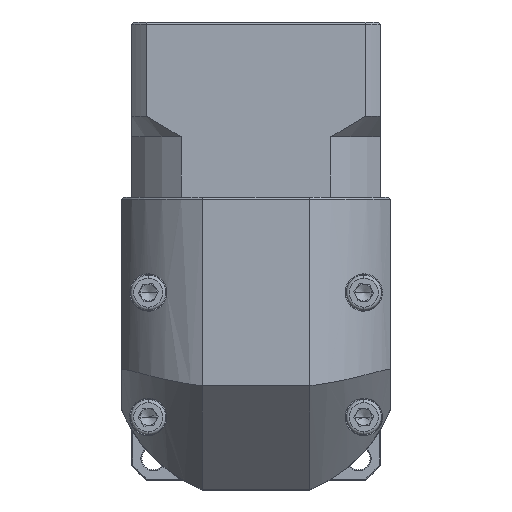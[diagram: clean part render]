
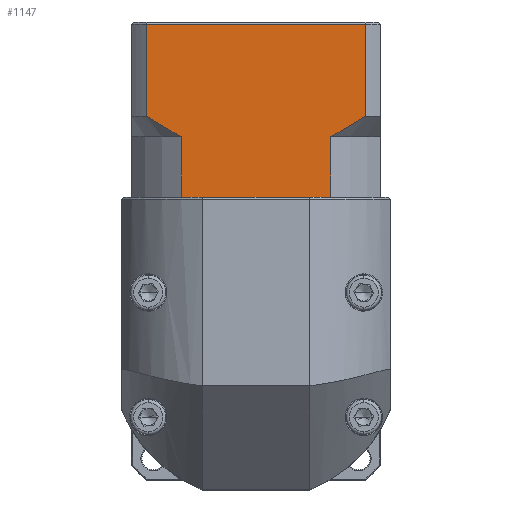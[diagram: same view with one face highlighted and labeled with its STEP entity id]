
A CAD part, top view. The second image highlights one B-rep face of the part: STEP entity #1147.
In plain terms, the highlighted planar face has unit normal (0, 0, 1).
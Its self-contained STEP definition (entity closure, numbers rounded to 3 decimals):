
#999 = PLANE ( 'NONE',  #101458 ) ;
#1147 = ADVANCED_FACE ( 'NONE', ( #68574 ), #999, .F. ) ;
#2089 = LINE ( 'NONE', #47950, #33975 ) ;
#5155 = EDGE_LOOP ( 'NONE', ( #86245, #24915, #77739, #15494, #83954, #80770, #105689, #35446, #20777, #32608 ) ) ;
#5420 = VECTOR ( 'NONE', #24687, 1000. ) ;
#5564 = CARTESIAN_POINT ( 'NONE',  ( -70.671, 58.771, 46.008 ) ) ;
#7128 = DIRECTION ( 'NONE',  ( 0., 1., 0. ) ) ;
#9591 = VERTEX_POINT ( 'NONE', #22255 ) ;
#10323 = EDGE_CURVE ( 'NONE', #30391, #9591, #82722, .T. ) ;
#11227 = DIRECTION ( 'NONE',  ( 0., -1., 0. ) ) ;
#14207 = CARTESIAN_POINT ( 'NONE',  ( -64.98, 55.544, 46.008 ) ) ;
#14453 = CARTESIAN_POINT ( 'NONE',  ( -67.863, 57.096, 46.008 ) ) ;
#15267 = DIRECTION ( 'NONE',  ( 0., 1., 0. ) ) ;
#15461 = CARTESIAN_POINT ( 'NONE',  ( -76.952, 41.044, 46.008 ) ) ;
#15494 = ORIENTED_EDGE ( 'NONE', *, *, #47576, .T. ) ;
#16757 = CARTESIAN_POINT ( 'NONE',  ( -76.952, 83.244, 46.008 ) ) ;
#16766 = VECTOR ( 'NONE', #48493, 1000. ) ;
#17712 = LINE ( 'NONE', #31087, #24603 ) ;
#20777 = ORIENTED_EDGE ( 'NONE', *, *, #98537, .F. ) ;
#22255 = CARTESIAN_POINT ( 'NONE',  ( -20.495, 60.544, 46.008 ) ) ;
#22634 = CARTESIAN_POINT ( 'NONE',  ( -66.432, 56.292, 46.008 ) ) ;
#23281 = CARTESIAN_POINT ( 'NONE',  ( -21.857, 59.643, 46.008 ) ) ;
#24603 = VECTOR ( 'NONE', #67476, 1000. ) ;
#24687 = DIRECTION ( 'NONE',  ( -1., 0., 0. ) ) ;
#24707 = EDGE_CURVE ( 'NONE', #41498, #79836, #99080, .T. ) ;
#24915 = ORIENTED_EDGE ( 'NONE', *, *, #74631, .T. ) ;
#30391 = VERTEX_POINT ( 'NONE', #75151 ) ;
#30696 = CARTESIAN_POINT ( 'NONE',  ( -76.952, 41.044, 46.008 ) ) ;
#31087 = CARTESIAN_POINT ( 'NONE',  ( -20.495, 55.544, 46.008 ) ) ;
#32185 = CARTESIAN_POINT ( 'NONE',  ( -27.468, 56.294, 46.008 ) ) ;
#32458 = VECTOR ( 'NONE', #107277, 1000. ) ;
#32608 = ORIENTED_EDGE ( 'NONE', *, *, #10323, .T. ) ;
#32721 = VECTOR ( 'NONE', #33995, 1000. ) ;
#33975 = VECTOR ( 'NONE', #11227, 1000. ) ;
#33995 = DIRECTION ( 'NONE',  ( 1., 0., 0. ) ) ;
#35303 = CARTESIAN_POINT ( 'NONE',  ( -63.989, 41.044, 46.008 ) ) ;
#35409 = CARTESIAN_POINT ( 'NONE',  ( -29.915, 41.044, 46.008 ) ) ;
#35446 = ORIENTED_EDGE ( 'NONE', *, *, #86061, .T. ) ;
#38544 = VERTEX_POINT ( 'NONE', #52718 ) ;
#40121 = LINE ( 'NONE', #42513, #5420 ) ;
#40366 = CARTESIAN_POINT ( 'NONE',  ( -28.924, 55.544, 46.008 ) ) ;
#40744 = DIRECTION ( 'NONE',  ( 1., 0., 0. ) ) ;
#41498 = VERTEX_POINT ( 'NONE', #100053 ) ;
#41847 = CARTESIAN_POINT ( 'NONE',  ( -26.043, 57.095, 46.008 ) ) ;
#42513 = CARTESIAN_POINT ( 'NONE',  ( -76.952, 82.744, 46.008 ) ) ;
#44305 = B_SPLINE_CURVE_WITH_KNOTS ( 'NONE', 3,
 ( #75406, #57851, #5564, #14453, #22634, #84677 ),
 .UNSPECIFIED., .F., .F.,
 ( 4, 2, 4 ),
 ( 0.052, 0.057, 0.062 ),
 .UNSPECIFIED. ) ;
#44544 = LINE ( 'NONE', #30696, #16766 ) ;
#47576 = EDGE_CURVE ( 'NONE', #107423, #79836, #44305, .T. ) ;
#47950 = CARTESIAN_POINT ( 'NONE',  ( -28.924, 55.544, 46.008 ) ) ;
#48493 = DIRECTION ( 'NONE',  ( 1., 0., 0. ) ) ;
#49957 = CARTESIAN_POINT ( 'NONE',  ( -20.495, 60.544, 46.008 ) ) ;
#50699 = CARTESIAN_POINT ( 'NONE',  ( -23.237, 58.769, 46.008 ) ) ;
#50864 = CARTESIAN_POINT ( 'NONE',  ( -73.41, 55.544, 46.008 ) ) ;
#51116 = CARTESIAN_POINT ( 'NONE',  ( -20.495, 82.744, 46.008 ) ) ;
#52522 = CARTESIAN_POINT ( 'NONE',  ( -64.98, 55.544, 46.008 ) ) ;
#52718 = CARTESIAN_POINT ( 'NONE',  ( -28.924, 41.044, 46.008 ) ) ;
#55233 = LINE ( 'NONE', #50864, #91294 ) ;
#56655 = VERTEX_POINT ( 'NONE', #35409 ) ;
#57851 = CARTESIAN_POINT ( 'NONE',  ( -72.05, 59.645, 46.008 ) ) ;
#58298 = VERTEX_POINT ( 'NONE', #35303 ) ;
#59769 = DIRECTION ( 'NONE',  ( 0., 0., -1. ) ) ;
#64568 = VERTEX_POINT ( 'NONE', #51116 ) ;
#67476 = DIRECTION ( 'NONE',  ( 0., -1., 0. ) ) ;
#68574 = FACE_OUTER_BOUND ( 'NONE', #5155, .T. ) ;
#71404 = VECTOR ( 'NONE', #40744, 1000. ) ;
#74631 = EDGE_CURVE ( 'NONE', #64568, #106180, #40121, .T. ) ;
#74884 = EDGE_CURVE ( 'NONE', #64568, #9591, #17712, .T. ) ;
#75151 = CARTESIAN_POINT ( 'NONE',  ( -28.924, 55.544, 46.008 ) ) ;
#75406 = CARTESIAN_POINT ( 'NONE',  ( -73.41, 60.544, 46.008 ) ) ;
#77330 = EDGE_CURVE ( 'NONE', #58298, #56655, #44544, .T. ) ;
#77739 = ORIENTED_EDGE ( 'NONE', *, *, #93089, .F. ) ;
#79836 = VERTEX_POINT ( 'NONE', #14207 ) ;
#79946 = LINE ( 'NONE', #104201, #32721 ) ;
#80770 = ORIENTED_EDGE ( 'NONE', *, *, #91867, .T. ) ;
#82722 = B_SPLINE_CURVE_WITH_KNOTS ( 'NONE', 3,
 ( #40366, #32185, #41847, #50699, #23281, #49957 ),
 .UNSPECIFIED., .F., .F.,
 ( 4, 2, 4 ),
 ( 0.1, 0.104, 0.109 ),
 .UNSPECIFIED. ) ;
#83954 = ORIENTED_EDGE ( 'NONE', *, *, #24707, .F. ) ;
#84677 = CARTESIAN_POINT ( 'NONE',  ( -64.98, 55.544, 46.008 ) ) ;
#84933 = CARTESIAN_POINT ( 'NONE',  ( -73.41, 60.544, 46.008 ) ) ;
#86061 = EDGE_CURVE ( 'NONE', #56655, #38544, #79946, .T. ) ;
#86245 = ORIENTED_EDGE ( 'NONE', *, *, #74884, .F. ) ;
#91294 = VECTOR ( 'NONE', #15267, 1000. ) ;
#91867 = EDGE_CURVE ( 'NONE', #41498, #58298, #94981, .T. ) ;
#93089 = EDGE_CURVE ( 'NONE', #107423, #106180, #55233, .T. ) ;
#94981 = LINE ( 'NONE', #15461, #71404 ) ;
#98537 = EDGE_CURVE ( 'NONE', #30391, #38544, #2089, .T. ) ;
#99080 = LINE ( 'NONE', #52522, #32458 ) ;
#100053 = CARTESIAN_POINT ( 'NONE',  ( -64.98, 41.044, 46.008 ) ) ;
#101458 = AXIS2_PLACEMENT_3D ( 'NONE', #16757, #59769, #7128 ) ;
#104201 = CARTESIAN_POINT ( 'NONE',  ( -76.952, 41.044, 46.008 ) ) ;
#105689 = ORIENTED_EDGE ( 'NONE', *, *, #77330, .T. ) ;
#106180 = VERTEX_POINT ( 'NONE', #113971 ) ;
#107277 = DIRECTION ( 'NONE',  ( 0., 1., 0. ) ) ;
#107423 = VERTEX_POINT ( 'NONE', #84933 ) ;
#113971 = CARTESIAN_POINT ( 'NONE',  ( -73.41, 82.744, 46.008 ) ) ;
